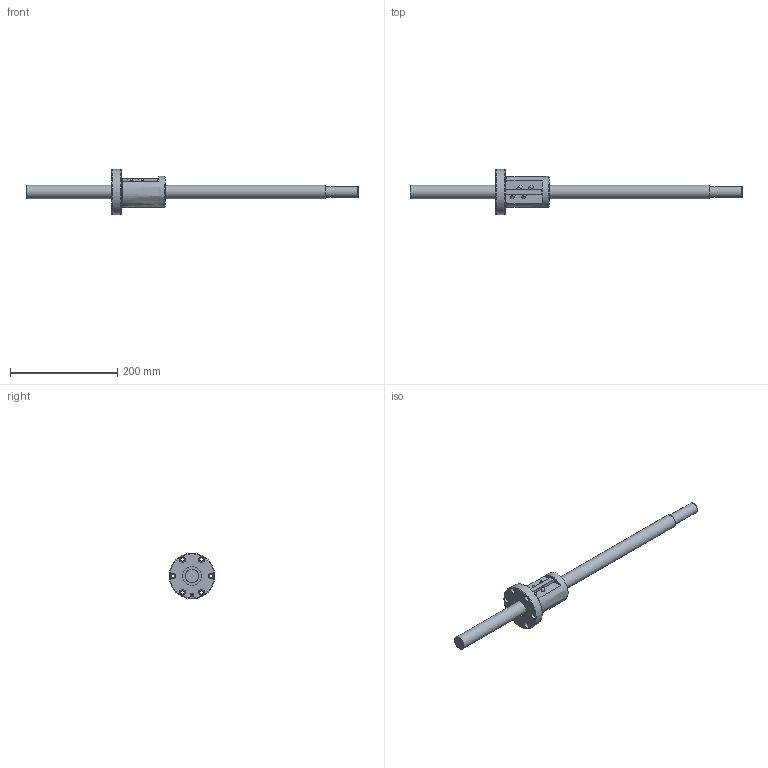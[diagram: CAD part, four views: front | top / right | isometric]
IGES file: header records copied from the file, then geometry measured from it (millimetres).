
Start section: Data from Parasolid IGES Translator 26.0.171, Copyright(c) 2006 Siemens PLM Software. All Rights Reserved.
Global section: file name: BIF2510A-5RRG0+620LC5A(00).igs; native system: By Siemens PLM Incorporated; preprocessor: XPlus GENERIC/IGES 26.0.171; author: Noname; organization: Noname; date: 20240715.072806; units: millimetre
Bounding box: 620 x 85 x 85 mm (x, y, z)
Surface area: 90978.5 mm2 (no closed solid volume)
Topology: 0 solids, 0 shells, 86 faces, 378 edges, 352 vertices
Faces by surface type: revolution 58, extrusion 28
